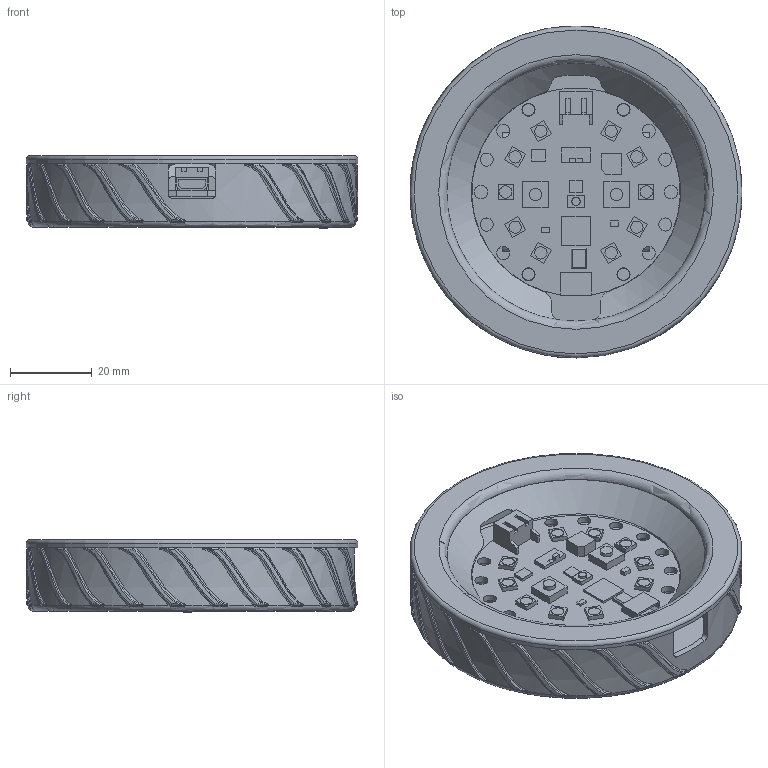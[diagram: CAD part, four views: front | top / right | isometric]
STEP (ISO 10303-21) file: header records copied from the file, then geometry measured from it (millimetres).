
FILE_DESCRIPTION(/* description */ (''),/* implementation_level */ '2;1');
FILE_NAME(/* name */ '/Users/pedroruiz/Dropbox/3D/Products/Circuit Playground Case/sources/CPX Case – Circle.step',/* time_stamp */ '2019-06-23T15:04:51-04:00',/* author */ (''),/* organization */ (''),/* preprocessor_version */ 'ST-DEVELOPER v18',/* originating_system */ 'Autodesk Translation Framework v8.2.0.1029',/* authorisation */ '');
FILE_SCHEMA (('AUTOMOTIVE_DESIGN { 1 0 10303 214 3 1 1 }'));
Length unit declared in the file: millimetre
Products named in the file (7): Circuit Playground Case Battery; Electronics; slide switch v2 v1; 500mAh battery v1; Circuit Playground Express v11; Case; Cover
Assembly tree (6 placements, depth 3):
  Circuit Playground Case Battery
    Electronics
      slide switch v2 v1
      500mAh battery v1
      Circuit Playground Express v11
    Case
    Cover
Bounding box: 81 x 81 x 17.7 mm (x, y, z)
Volume: 29375.1 mm3; surface area: 36142.6 mm2
Topology: 28 solids, 28 shells, 668 faces, 1787 edges, 1198 vertices
Faces by surface type: plane 284, bspline 220, cylinder 104, torus 48, cone 12
Full cylindrical faces by diameter (mm): 2 x1, 2.9 x4, 3 x12, 3.2 x14, 5.9 x4, 77 x1, 81 x1
Entity records: 34516 total; most frequent: CARTESIAN_POINT 19362, ORIENTED_EDGE 3574, DIRECTION 2322, EDGE_CURVE 1787, VERTEX_POINT 1198, AXIS2_PLACEMENT_3D 844, B_SPLINE_CURVE_WITH_KNOTS 746, EDGE_LOOP 727
